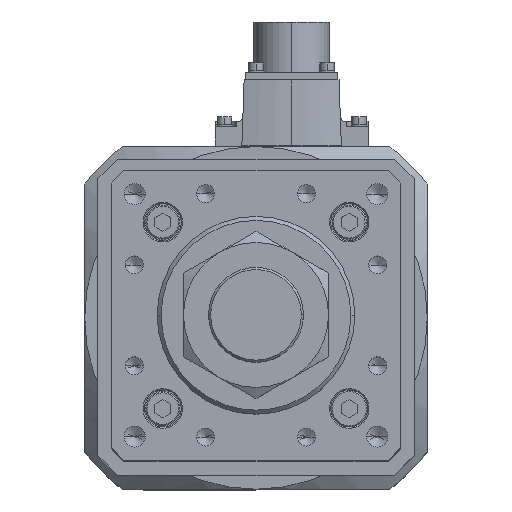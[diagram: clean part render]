
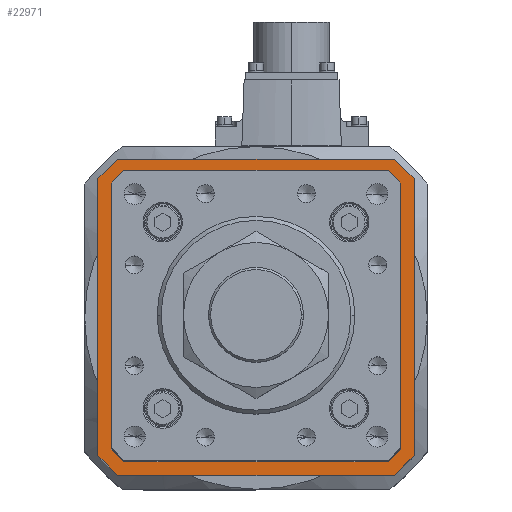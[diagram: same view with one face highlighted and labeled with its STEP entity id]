
A CAD part, top view. The second image highlights one B-rep face of the part: STEP entity #22971.
In plain terms, the highlighted planar face has unit normal (0, 0, 1).
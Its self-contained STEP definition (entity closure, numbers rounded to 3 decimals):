
#499 = DIRECTION ( 'NONE',  ( -0.707, -0.707, 0. ) ) ;
#665 = VERTEX_POINT ( 'NONE', #3318 ) ;
#1363 = EDGE_LOOP ( 'NONE', ( #23820, #24612, #36708, #8349, #9871, #21143, #6914, #8135 ) ) ;
#1567 = VERTEX_POINT ( 'NONE', #23410 ) ;
#1682 = DIRECTION ( 'NONE',  ( 0., 1., 0. ) ) ;
#1748 = LINE ( 'NONE', #15121, #14902 ) ;
#1917 = LINE ( 'NONE', #34125, #33729 ) ;
#2120 = VERTEX_POINT ( 'NONE', #30331 ) ;
#2396 = CARTESIAN_POINT ( 'NONE',  ( 60., 52.5, -119. ) ) ;
#2576 = LINE ( 'NONE', #4597, #16139 ) ;
#2907 = VERTEX_POINT ( 'NONE', #9078 ) ;
#3300 = ORIENTED_EDGE ( 'NONE', *, *, #29572, .T. ) ;
#3318 = CARTESIAN_POINT ( 'NONE',  ( 52.5, 60., -119. ) ) ;
#4597 = CARTESIAN_POINT ( 'NONE',  ( -49.446, 53.646, -119. ) ) ;
#4641 = CARTESIAN_POINT ( 'NONE',  ( 49.593, 53.5, -119. ) ) ;
#4661 = FACE_BOUND ( 'NONE', #31297, .T. ) ;
#4966 = CARTESIAN_POINT ( 'NONE',  ( -49.8, -53.5, -119. ) ) ;
#5073 = DIRECTION ( 'NONE',  ( 1., 0., 0. ) ) ;
#5316 = DIRECTION ( 'NONE',  ( -0.707, 0.707, 0. ) ) ;
#5355 = DIRECTION ( 'NONE',  ( 1., 0., 0. ) ) ;
#5384 = ORIENTED_EDGE ( 'NONE', *, *, #31764, .T. ) ;
#6559 = VECTOR ( 'NONE', #28911, 1000. ) ;
#6780 = CARTESIAN_POINT ( 'NONE',  ( -60., -52.5, -119. ) ) ;
#6878 = CARTESIAN_POINT ( 'NONE',  ( -53.5, -49.593, -119. ) ) ;
#6914 = ORIENTED_EDGE ( 'NONE', *, *, #16415, .F. ) ;
#7105 = CARTESIAN_POINT ( 'NONE',  ( 53.5, 49.593, -119. ) ) ;
#7441 = EDGE_CURVE ( 'NONE', #11252, #17821, #1917, .T. ) ;
#8135 = ORIENTED_EDGE ( 'NONE', *, *, #10206, .F. ) ;
#8349 = ORIENTED_EDGE ( 'NONE', *, *, #17560, .F. ) ;
#8707 = CARTESIAN_POINT ( 'NONE',  ( -49.593, -53.5, -119. ) ) ;
#9078 = CARTESIAN_POINT ( 'NONE',  ( -52.5, 60., -119. ) ) ;
#9244 = DIRECTION ( 'NONE',  ( -0.707, -0.707, 0. ) ) ;
#9343 = EDGE_CURVE ( 'NONE', #22165, #2120, #33595, .T. ) ;
#9379 = CARTESIAN_POINT ( 'NONE',  ( 49.446, -53.646, -119. ) ) ;
#9871 = ORIENTED_EDGE ( 'NONE', *, *, #37693, .F. ) ;
#10206 = EDGE_CURVE ( 'NONE', #665, #35151, #12889, .T. ) ;
#10719 = CARTESIAN_POINT ( 'NONE',  ( -60., 52.5, -119. ) ) ;
#10932 = DIRECTION ( 'NONE',  ( 0., 0., 1. ) ) ;
#10971 = ORIENTED_EDGE ( 'NONE', *, *, #36723, .T. ) ;
#11185 = LINE ( 'NONE', #15546, #29326 ) ;
#11252 = VERTEX_POINT ( 'NONE', #4641 ) ;
#11949 = VECTOR ( 'NONE', #25254, 1000. ) ;
#12322 = VECTOR ( 'NONE', #5316, 1000. ) ;
#12889 = LINE ( 'NONE', #30892, #26034 ) ;
#13865 = DIRECTION ( 'NONE',  ( 0.707, -0.707, 0. ) ) ;
#13881 = VECTOR ( 'NONE', #23704, 1000. ) ;
#13933 = CARTESIAN_POINT ( 'NONE',  ( -53.5, 49.593, -119. ) ) ;
#14281 = LINE ( 'NONE', #9379, #27000 ) ;
#14545 = VECTOR ( 'NONE', #499, 1000. ) ;
#14722 = VERTEX_POINT ( 'NONE', #8707 ) ;
#14890 = LINE ( 'NONE', #15051, #37165 ) ;
#14902 = VECTOR ( 'NONE', #20998, 1000. ) ;
#15028 = AXIS2_PLACEMENT_3D ( 'NONE', #25482, #10932, #5073 ) ;
#15051 = CARTESIAN_POINT ( 'NONE',  ( 52.5, -60., -119. ) ) ;
#15121 = CARTESIAN_POINT ( 'NONE',  ( 53.5, -49.8, -119. ) ) ;
#15546 = CARTESIAN_POINT ( 'NONE',  ( -53.5, 49.8, -119. ) ) ;
#16139 = VECTOR ( 'NONE', #16480, 1000. ) ;
#16308 = DIRECTION ( 'NONE',  ( 0.707, -0.707, 0. ) ) ;
#16415 = EDGE_CURVE ( 'NONE', #35151, #1567, #29203, .T. ) ;
#16480 = DIRECTION ( 'NONE',  ( 0.707, 0.707, 0. ) ) ;
#16583 = PLANE ( 'NONE',  #15028 ) ;
#16827 = VECTOR ( 'NONE', #5355, 1000. ) ;
#17212 = VERTEX_POINT ( 'NONE', #23390 ) ;
#17560 = EDGE_CURVE ( 'NONE', #17212, #22165, #25424, .T. ) ;
#17821 = VERTEX_POINT ( 'NONE', #7105 ) ;
#17849 = CARTESIAN_POINT ( 'NONE',  ( 60., -52.5, -119. ) ) ;
#17962 = EDGE_CURVE ( 'NONE', #14722, #24753, #32759, .T. ) ;
#19115 = EDGE_CURVE ( 'NONE', #17821, #27808, #1748, .T. ) ;
#19404 = CARTESIAN_POINT ( 'NONE',  ( 52.5, 60., -119. ) ) ;
#19750 = CARTESIAN_POINT ( 'NONE',  ( 60., 52.5, -119. ) ) ;
#20256 = ORIENTED_EDGE ( 'NONE', *, *, #7441, .T. ) ;
#20313 = CARTESIAN_POINT ( 'NONE',  ( -52.5, -60., -119. ) ) ;
#20806 = CARTESIAN_POINT ( 'NONE',  ( 49.8, 53.5, -119. ) ) ;
#20830 = ORIENTED_EDGE ( 'NONE', *, *, #36367, .T. ) ;
#20998 = DIRECTION ( 'NONE',  ( 0., -1., 0. ) ) ;
#21143 = ORIENTED_EDGE ( 'NONE', *, *, #25227, .F. ) ;
#21379 = LINE ( 'NONE', #17849, #14545 ) ;
#22165 = VERTEX_POINT ( 'NONE', #6780 ) ;
#22971 = ADVANCED_FACE ( 'NONE', ( #4661, #28260 ), #16583, .T. ) ;
#23296 = ORIENTED_EDGE ( 'NONE', *, *, #17962, .T. ) ;
#23390 = CARTESIAN_POINT ( 'NONE',  ( -52.5, -60., -119. ) ) ;
#23410 = CARTESIAN_POINT ( 'NONE',  ( 60., -52.5, -119. ) ) ;
#23538 = VERTEX_POINT ( 'NONE', #29585 ) ;
#23704 = DIRECTION ( 'NONE',  ( 1., 0., 0. ) ) ;
#23820 = ORIENTED_EDGE ( 'NONE', *, *, #24917, .F. ) ;
#24612 = ORIENTED_EDGE ( 'NONE', *, *, #32253, .F. ) ;
#24753 = VERTEX_POINT ( 'NONE', #6878 ) ;
#24917 = EDGE_CURVE ( 'NONE', #2907, #665, #33219, .T. ) ;
#25227 = EDGE_CURVE ( 'NONE', #1567, #23538, #21379, .T. ) ;
#25254 = DIRECTION ( 'NONE',  ( -1., 0., 0. ) ) ;
#25424 = LINE ( 'NONE', #20313, #34525 ) ;
#25482 = CARTESIAN_POINT ( 'NONE',  ( 0., 0., -119. ) ) ;
#26034 = VECTOR ( 'NONE', #13865, 1000. ) ;
#26877 = LINE ( 'NONE', #28407, #37327 ) ;
#27000 = VECTOR ( 'NONE', #9244, 1000. ) ;
#27808 = VERTEX_POINT ( 'NONE', #31648 ) ;
#27817 = LINE ( 'NONE', #4966, #11949 ) ;
#28054 = EDGE_CURVE ( 'NONE', #35021, #11252, #34793, .T. ) ;
#28260 = FACE_OUTER_BOUND ( 'NONE', #1363, .T. ) ;
#28407 = CARTESIAN_POINT ( 'NONE',  ( -52.5, 60., -119. ) ) ;
#28911 = DIRECTION ( 'NONE',  ( 0., -1., 0. ) ) ;
#28963 = ORIENTED_EDGE ( 'NONE', *, *, #28054, .T. ) ;
#29203 = LINE ( 'NONE', #19750, #6559 ) ;
#29326 = VECTOR ( 'NONE', #36008, 1000. ) ;
#29572 = EDGE_CURVE ( 'NONE', #27808, #36500, #14281, .T. ) ;
#29585 = CARTESIAN_POINT ( 'NONE',  ( 52.5, -60., -119. ) ) ;
#30301 = DIRECTION ( 'NONE',  ( 0.707, 0.707, 0. ) ) ;
#30331 = CARTESIAN_POINT ( 'NONE',  ( -60., 52.5, -119. ) ) ;
#30399 = VECTOR ( 'NONE', #1682, 1000. ) ;
#30892 = CARTESIAN_POINT ( 'NONE',  ( 60., 52.5, -119. ) ) ;
#30955 = CARTESIAN_POINT ( 'NONE',  ( -53.646, -49.446, -119. ) ) ;
#31297 = EDGE_LOOP ( 'NONE', ( #28963, #20256, #35995, #3300, #5384, #23296, #10971, #20830 ) ) ;
#31648 = CARTESIAN_POINT ( 'NONE',  ( 53.5, -49.593, -119. ) ) ;
#31764 = EDGE_CURVE ( 'NONE', #36500, #14722, #27817, .T. ) ;
#32253 = EDGE_CURVE ( 'NONE', #2120, #2907, #26877, .T. ) ;
#32759 = LINE ( 'NONE', #30955, #12322 ) ;
#33219 = LINE ( 'NONE', #19404, #16827 ) ;
#33595 = LINE ( 'NONE', #10719, #30399 ) ;
#33729 = VECTOR ( 'NONE', #16308, 1000. ) ;
#34073 = VERTEX_POINT ( 'NONE', #13933 ) ;
#34125 = CARTESIAN_POINT ( 'NONE',  ( 53.646, 49.446, -119. ) ) ;
#34433 = DIRECTION ( 'NONE',  ( -0.707, 0.707, 0. ) ) ;
#34525 = VECTOR ( 'NONE', #34433, 1000. ) ;
#34548 = CARTESIAN_POINT ( 'NONE',  ( 49.593, -53.5, -119. ) ) ;
#34793 = LINE ( 'NONE', #20806, #13881 ) ;
#35021 = VERTEX_POINT ( 'NONE', #36156 ) ;
#35151 = VERTEX_POINT ( 'NONE', #2396 ) ;
#35374 = DIRECTION ( 'NONE',  ( -1., 0., 0. ) ) ;
#35995 = ORIENTED_EDGE ( 'NONE', *, *, #19115, .T. ) ;
#36008 = DIRECTION ( 'NONE',  ( 0., 1., 0. ) ) ;
#36156 = CARTESIAN_POINT ( 'NONE',  ( -49.593, 53.5, -119. ) ) ;
#36367 = EDGE_CURVE ( 'NONE', #34073, #35021, #2576, .T. ) ;
#36500 = VERTEX_POINT ( 'NONE', #34548 ) ;
#36708 = ORIENTED_EDGE ( 'NONE', *, *, #9343, .F. ) ;
#36723 = EDGE_CURVE ( 'NONE', #24753, #34073, #11185, .T. ) ;
#37165 = VECTOR ( 'NONE', #35374, 1000. ) ;
#37327 = VECTOR ( 'NONE', #30301, 1000. ) ;
#37693 = EDGE_CURVE ( 'NONE', #23538, #17212, #14890, .T. ) ;
